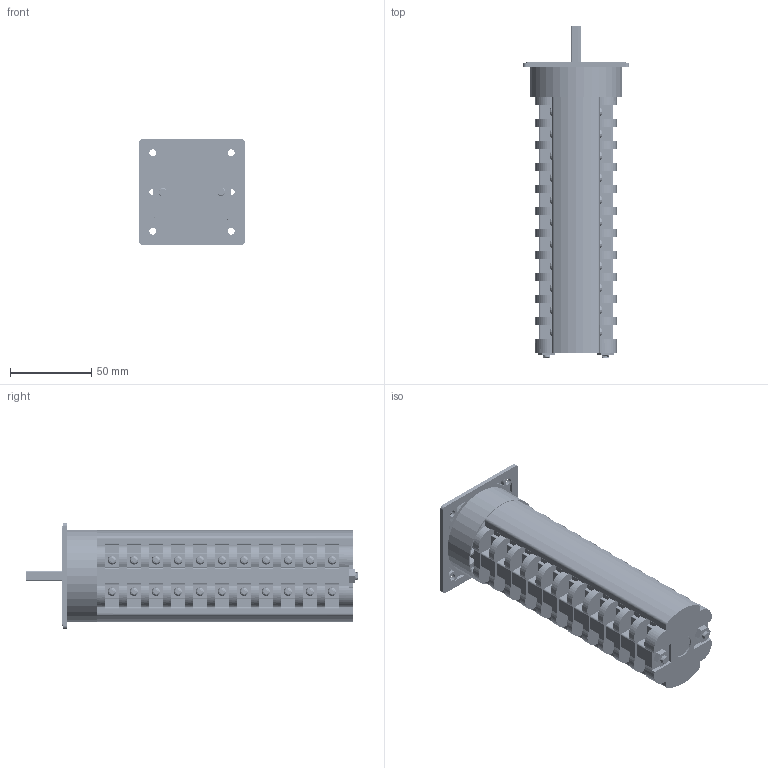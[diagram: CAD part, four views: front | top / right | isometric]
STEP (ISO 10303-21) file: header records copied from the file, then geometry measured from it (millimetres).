
FILE_DESCRIPTION(/* description */ (''),/* implementation_level */ '2;1');
FILE_NAME(/* name */ '4G16,25_standard_11_korpusow.stp',/* time_stamp */ '2021-07-21T14:30:18+02:00',/* author */ (''),/* organization */ (''),/* preprocessor_version */ 'ST-DEVELOPER v18.1',/* originating_system */ 'SIEMENS PLM Software NX 1965',/* authorisation */ '');
FILE_SCHEMA (('AUTOMOTIVE_DESIGN { 1 0 10303 214 3 1 1 1 }'));
Products named in the file (1): 4G16,25_standard_11_korpusow_stp
Bounding box: 65 x 203.7 x 65 mm (x, y, z)
Volume: 348028.4 mm3; surface area: 78149.1 mm2
Topology: 1 solids, 5 shells, 2170 faces, 6097 edges, 4031 vertices
Faces by surface type: plane 1302, cylinder 585, bspline 194, cone 89
Full cylindrical faces by diameter (mm): 3.3 x3, 4 x4, 4.3 x4, 5 x2, 5.4 x44, 6.5 x2, 7.2 x4, 10 x1, 14 x1, 57 x1
Entity records: 199589 total; most frequent: CARTESIAN_POINT 146300, ORIENTED_EDGE 11760, DIRECTION 10029, EDGE_CURVE 5880, VERTEX_POINT 3930, AXIS2_PLACEMENT_3D 3583, LINE 2863, VECTOR 2863
